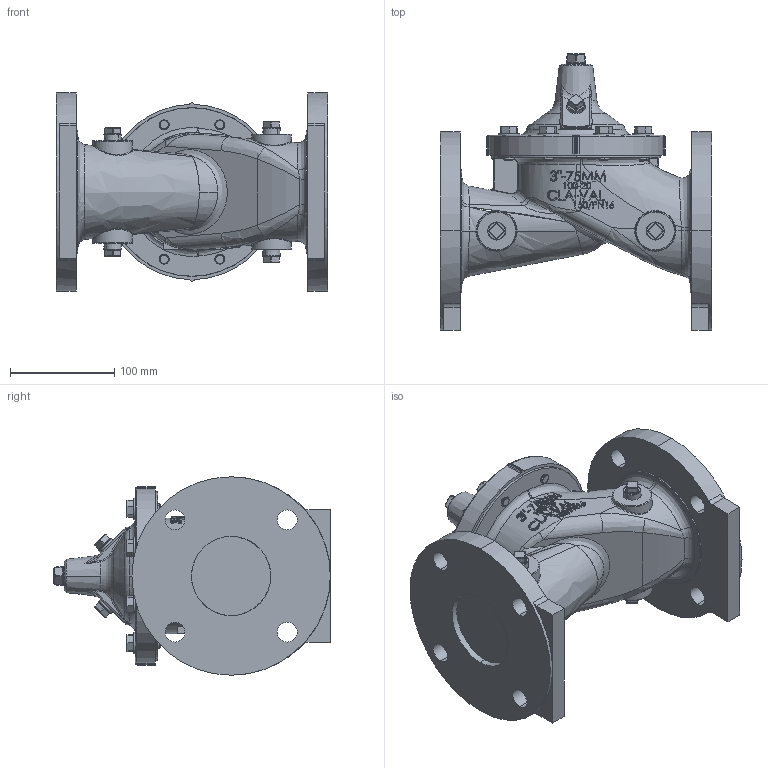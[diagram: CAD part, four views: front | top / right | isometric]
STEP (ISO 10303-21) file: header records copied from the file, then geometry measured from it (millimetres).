
FILE_DESCRIPTION (( 'STEP AP203' ), '1' );
FILE_NAME ('3in 100-20 150AG.STEP', '2024-07-09T21:40:52', ( '' ), ( '' ), 'SwSTEP 2.0', 'SolidWorks 2023', '' );
FILE_SCHEMA (( 'CONFIG_CONTROL_DESIGN' ));
Length unit declared in the file: inch
Products named in the file (7): Bolt .375-16 UNC  (67605)_1.00   67605-05F; 2in Cover (no core) 100-01_No Spotface; .375 NPT SQ HD PIPE PLUG (67660)_STEEL CP (FORGED); .500 NPT SQ HD PIPE PLUG (67660)_STEEL CP (FORGED); 3in Body ReGl150A_(17672); WASHER FOR .375 SCREW (67748)_.375N   67748-04G; 3in 100-20 150AG
Assembly tree (25 placements, depth 2):
  3in 100-20 150AG
    3in Body ReGl150A_(17672)
    2in Cover (no core) 100-01_No Spotface
    Bolt .375-16 UNC  (67605)_1.00   67605-05F  x8
    .375 NPT SQ HD PIPE PLUG (67660)_STEEL CP (FORGED)  x6
    .500 NPT SQ HD PIPE PLUG (67660)_STEEL CP (FORGED)
    WASHER FOR .375 SCREW (67748)_.375N   67748-04G  x8
Bounding box: 260.35 x 265.68 x 190.5 mm (x, y, z)
Volume: 3298144.8 mm3; surface area: 346031 mm2
Topology: 25 solids, 29 shells, 1302 faces, 3136 edges, 1908 vertices
Faces by surface type: bspline 437, cylinder 324, plane 288, cone 113, torus 84, sphere 56
Entity records: 62858 total; most frequent: CARTESIAN_POINT 42058, ORIENTED_EDGE 4804, DIRECTION 2886, EDGE_CURVE 2402, VERTEX_POINT 1490, B_SPLINE_CURVE_WITH_KNOTS 1202, AXIS2_PLACEMENT_3D 1195, EDGE_LOOP 1072
